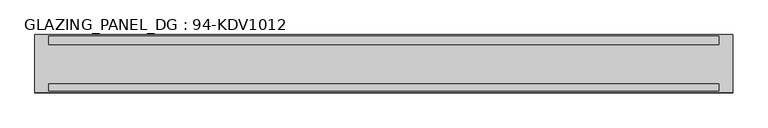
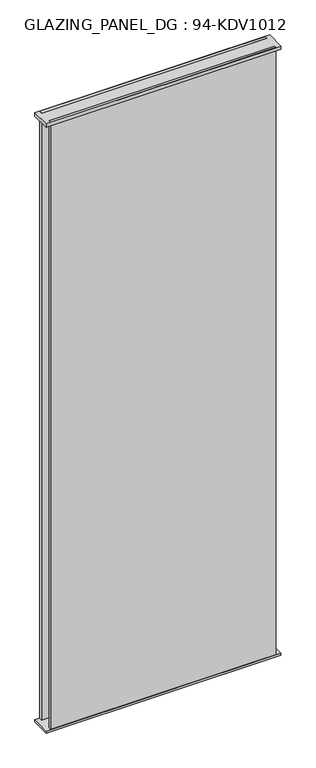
"""IFC4 building model written with IfcOpenShell, lengths in millimetres: plate geometry, GLAZING_PANEL_DG : 94-KDV1012."""

from ifc_helpers import new_model, si_unit, frame, origin, origin_with_axes, place, context, project, spatial, polyline, outline, extrude, source, transform, mapped, element, save


def glazing_panel_dg_94_kdv1012_358c8b5d(model_context):
    return source(origin(), model_context, "Body", "SweptSolid", [
        extrude(outline(polyline([(480.0, -39.5), (-480.0, -39.5), (-480.0, -29.5), (480.0, -29.5), (480.0, -39.5)])), origin_with_axes(), (0.0, 0.0, 1.0), 2739.0),
        extrude(outline(polyline([(480.0, 27.5), (-480.0, 27.5), (-480.0, 39.5), (480.0, 39.5), (480.0, 27.5)])), origin_with_axes(), (0.0, 0.0, 1.0), 2739.0),
        extrude(outline(polyline([(500.0, 41.5), (500.0, -41.5), (-500.0, -41.5), (-500.0, 41.5), (500.0, 41.5)])), frame((0.0, 0.0, 2724.0), z_axis=(0.0, 0.0, 1.0), x_axis=(1.0, 0.0, 0.0)), (0.0, 0.0, 1.0), 15.0),
        extrude(outline(polyline([(500.0, -41.5), (-500.0, -41.5), (-500.0, 41.5), (500.0, 41.5), (500.0, -41.5)])), origin_with_axes(), (0.0, 0.0, 1.0), 9.0),
    ])


if __name__ == "__main__":
    model = new_model("IFC4")
    model_context = context("Model", 3, world=origin())
    ifc_project = project(units=[si_unit("LENGTHUNIT", "METRE", prefix="MILLI")], contexts=[model_context])
    site = spatial("IfcSite", under=ifc_project)
    building = spatial("IfcBuilding", under=site)
    placement = place(None, origin())
    glazing_panel_dg_94_kdv1012_shape = glazing_panel_dg_94_kdv1012_358c8b5d(model_context)
    element("IfcPlate", 1, ObjectType="GLAZING_PANEL_DG : 94-KDV1012", at=placement, inside=building, context=model_context, shape_type="MappedRepresentation", body=[
        mapped(glazing_panel_dg_94_kdv1012_shape, transform((0.0, 0.0, 0.0), x_axis=(1.0, 0.0, 0.0), y_axis=(0.0, 1.0, 0.0), z_axis=(0.0, 0.0, 1.0))),
    ])
    save(model, "model.ifc")
